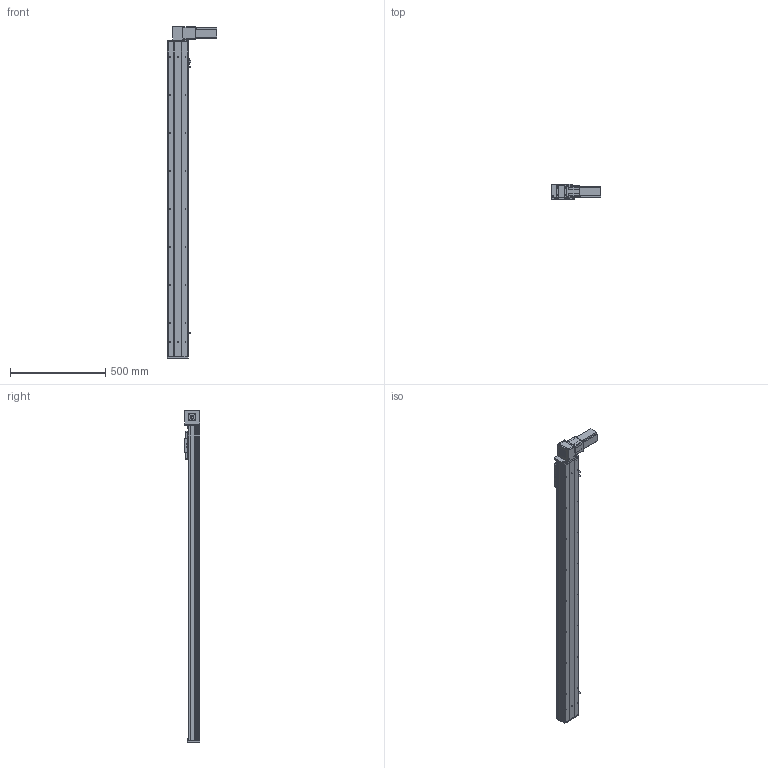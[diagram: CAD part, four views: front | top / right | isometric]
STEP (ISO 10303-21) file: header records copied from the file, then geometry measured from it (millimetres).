
FILE_DESCRIPTION (( 'STEP AP203' ), '1' );
FILE_NAME ('Y10CB-D90-S1400-BM-P400W.STEP', '2020-02-17T02:41:26', ( '微软用户' ), ( '微软中国' ), 'SwSTEP 2.0', 'SolidWorks 2017', '' );
FILE_SCHEMA (( 'CONFIG_CONTROL_DESIGN' ));
Length unit declared in the file: millimetre
Products named in the file (16): Y10C---詩湍揤啣; 0CB-雄赽釱---; 10CB9-掛极; 0Cb-俋欶---; 10CB-耜裔; Y10B-々湍喘謫眊楊擘啣--; Y135C-陔俋离換覜結え-; san松下电机400不带刹车----; Y100-135俋离換覜ん--; 0B-源倛裔啣; Y10B--々湍喘謫眊--666; 0B-埴倛裔啣; 0B-薊粣ん眊; 10CB-詩湍-; Y10CB-D90-S1400-BM-P400W; Y10CB- 掛极耜裔啣-毀---
Assembly tree (19 placements, depth 2):
  Y10CB-D90-S1400-BM-P400W
    0CB-雄赽釱---
    0Cb-俋欶---
    Y10B-々湍喘謫眊楊擘啣--
    san松下电机400不带刹车----
    0B-源倛裔啣
    0B-埴倛裔啣
    10CB-詩湍-
    Y10CB- 掛极耜裔啣-毀---  x2
    Y10C---詩湍揤啣  x2
    10CB9-掛极
    10CB-耜裔
    Y135C-陔俋离換覜結え-
    Y100-135俋离換覜ん--  x3
    Y10B--々湍喘謫眊--666
    0B-薊粣ん眊
Bounding box: 258 x 80.5 x 1746 mm (x, y, z)
Volume: 3834201.7 mm3; surface area: 1719997.9 mm2
Topology: 19 solids, 19 shells, 924 faces, 2462 edges, 1604 vertices
Faces by surface type: cylinder 460, plane 440, cone 24
Entity records: 28569 total; most frequent: CARTESIAN_POINT 5200, DIRECTION 4593, ORIENTED_EDGE 4394, EDGE_CURVE 2197, AXIS2_PLACEMENT_3D 1647, VERTEX_POINT 1430, LINE 1299, VECTOR 1299
